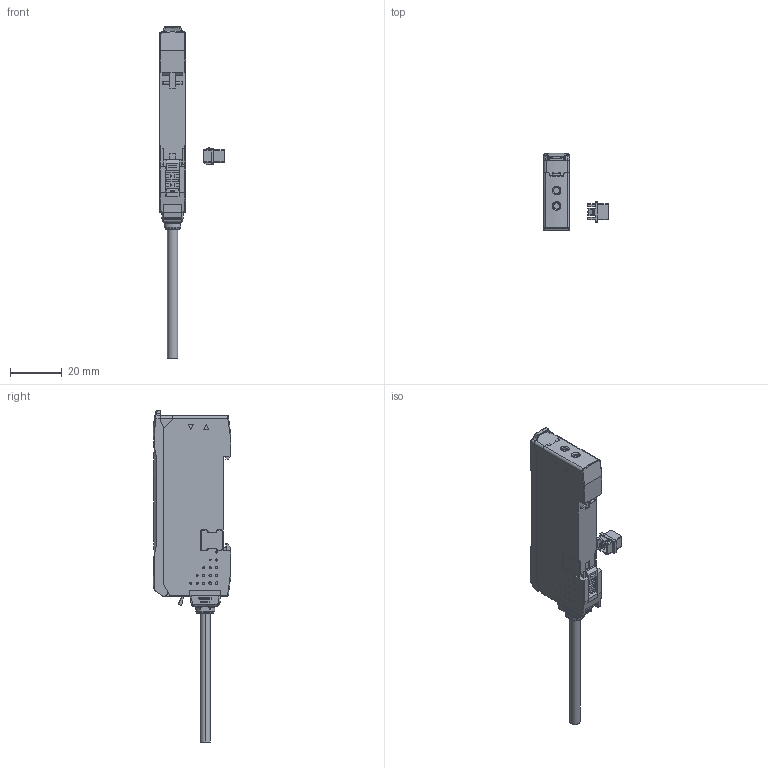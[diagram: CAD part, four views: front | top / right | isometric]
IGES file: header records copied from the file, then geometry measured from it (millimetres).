
Start section: SolidWorks IGES file using analytic representation for surfaces
Bounding box: 25 x 30 x 128.4 mm (x, y, z)
Surface area: 11309.3 mm2 (no closed solid volume)
Topology: 0 solids, 0 shells, 1450 faces, 10501 edges, 10488 vertices
Faces by surface type: bspline 1049, revolution 401
